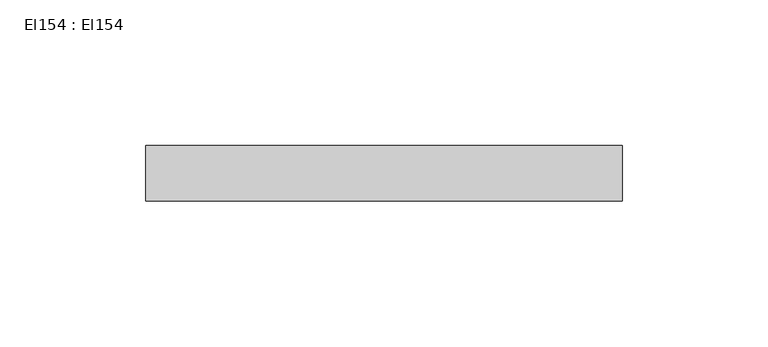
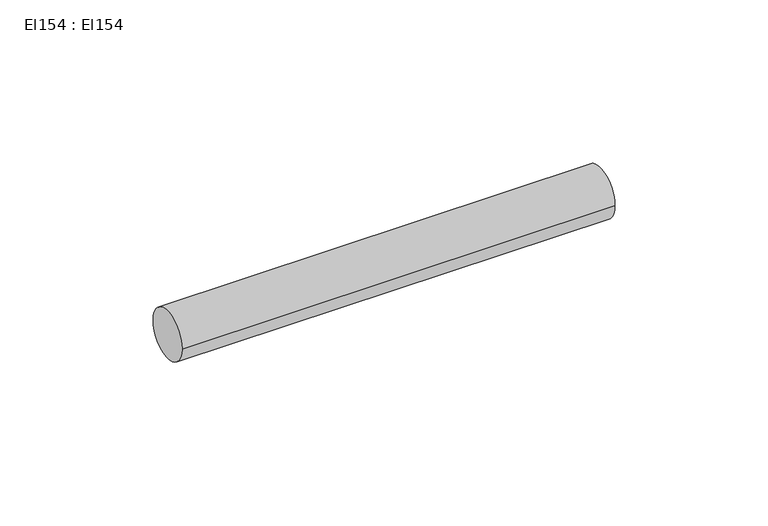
"""IFC4 building model written with IfcOpenShell, lengths in millimetres: cable carrier segment geometry, El154 : El154."""

from ifc_helpers import new_model, si_unit, point, frame, frame_2d, origin, place, context, project, spatial, circle_curve, trimmed, segment, composite_curve, outline, extrude, source, transform, mapped, element, save


def el154_el154_44192ea7(model_context):
    return source(origin(), model_context, "Body", "SweptSolid", [
        extrude(outline(composite_curve([segment(trimmed(circle_curve(frame_2d((13172.1, 1200.0)), 9.5), [point((13162.6, 1200.0))], [point((13181.6, 1200.0))], False, "CARTESIAN"), True, "CONTINUOUS"), segment(trimmed(circle_curve(frame_2d((13172.1, 1200.0)), 9.5), [point((13181.6, 1200.0))], [point((13162.6, 1200.0))], False, "CARTESIAN"), True, "CONTINUOUS")], self_intersect=False)), frame((22396.1277, 0.0, 0.0), z_axis=(1.0, 0.0, 0.0), x_axis=(0.0, 1.0, 0.0)), (0.0, 0.0, 1.0), 163.145),
    ])


if __name__ == "__main__":
    model = new_model("IFC4")
    model_context = context("Model", 3, world=origin())
    ifc_project = project(units=[si_unit("LENGTHUNIT", "METRE", prefix="MILLI")], contexts=[model_context])
    site = spatial("IfcSite", under=ifc_project)
    building = spatial("IfcBuilding", under=site)
    placement = place(None, origin())
    el154_el154_shape = el154_el154_44192ea7(model_context)
    element("IfcCableCarrierSegment", 1, ObjectType="El154 : El154", at=placement, inside=building, context=model_context, shape_type="MappedRepresentation", body=[
        mapped(el154_el154_shape, transform((0.0, 0.0, 0.0), x_axis=(1.0, 0.0, 0.0), y_axis=(0.0, 1.0, 0.0), z_axis=(0.0, 0.0, 1.0))),
    ])
    save(model, "model.ifc")
